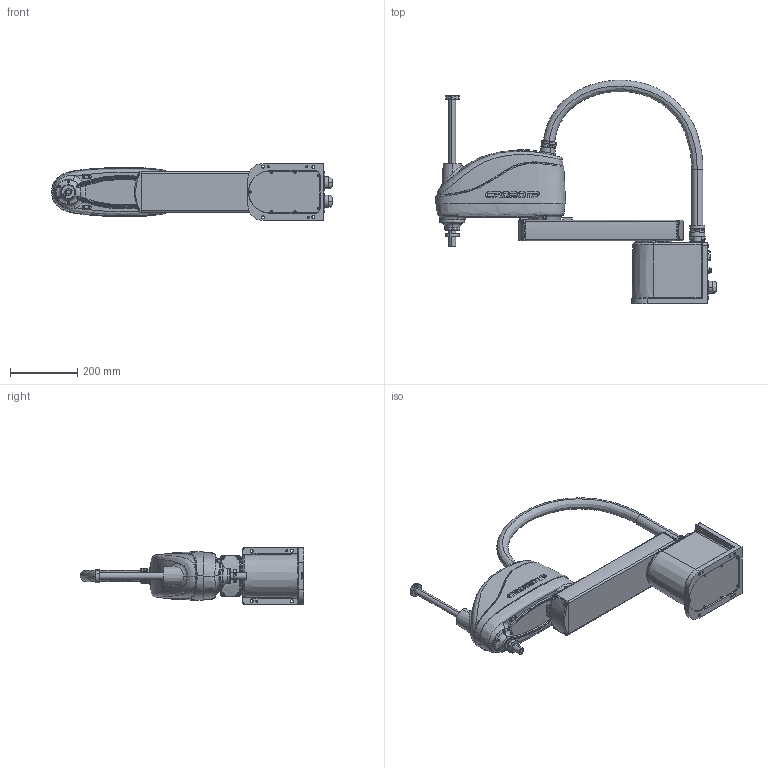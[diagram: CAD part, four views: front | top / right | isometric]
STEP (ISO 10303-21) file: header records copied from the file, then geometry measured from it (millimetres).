
FILE_DESCRIPTION (( 'STEP AP214' ), '1' );
FILE_NAME ('CRP-RS06-06.STEP', '2023-02-21T11:11:44', ( '' ), ( '' ), 'SwSTEP 2.0', 'SolidWorks 2016', '' );
FILE_SCHEMA (( 'AUTOMOTIVE_DESIGN' ));
Length unit declared in the file: millimetre
Products named in the file (7): CRP-RS06-06; RS0606-01 菁釱郪璃(淏蚾); RS0606-02 湮旋蚾饜极; Harness_1-CRP-RS06-06; 萇擢^Harness_1-CRP-RS06-06; RS0606-04 佪裝; RS0606-03 苤旋蚾饜极
Assembly tree (6 placements, depth 3):
  CRP-RS06-06
    RS0606-01 菁釱郪璃(淏蚾)
    RS0606-02 湮旋蚾饜极
    RS0606-03 苤旋蚾饜极
    RS0606-04 佪裝
    Harness_1-CRP-RS06-06
      萇擢^Harness_1-CRP-RS06-06
Bounding box: 836.14 x 665.66 x 170 mm (x, y, z)
Volume: 17654974.3 mm3; surface area: 1060055.4 mm2
Topology: 33 solids, 86 shells, 4075 faces, 9817 edges, 6120 vertices
Faces by surface type: plane 1753, cylinder 1120, bspline 512, cone 505, torus 143, sphere 42
Entity records: 167067 total; most frequent: CARTESIAN_POINT 62954, ORIENTED_EDGE 19238, DIRECTION 19148, EDGE_CURVE 9619, AXIS2_PLACEMENT_3D 7324, VERTEX_POINT 6080, EDGE_LOOP 4663, VECTOR 4500
